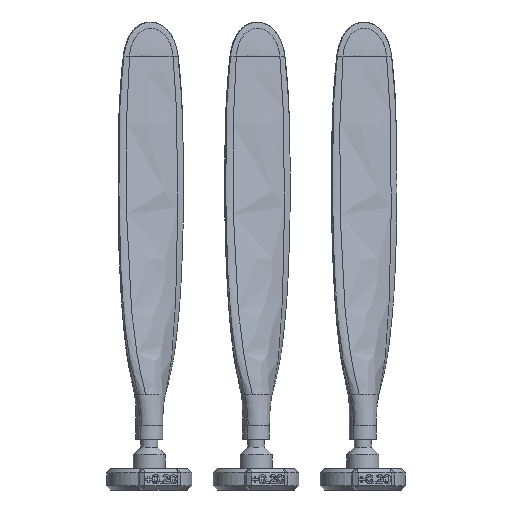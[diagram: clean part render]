
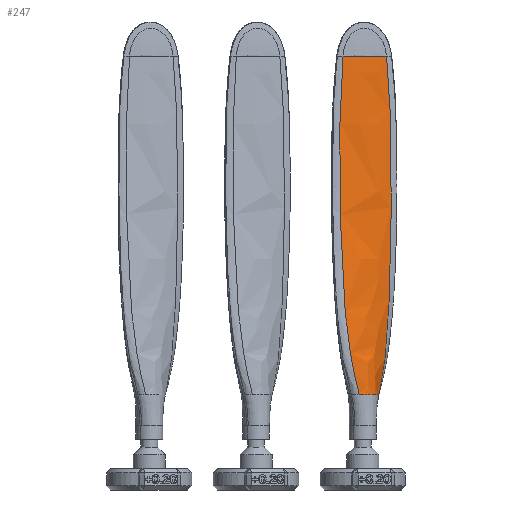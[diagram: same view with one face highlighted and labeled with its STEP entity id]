
A CAD part, front view. The second image highlights one B-rep face of the part: STEP entity #247.
In plain terms, the highlighted free-form (B-spline) face has degree [3, 3] with [4, 16] control points.
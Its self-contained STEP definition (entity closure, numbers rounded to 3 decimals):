
#247=ADVANCED_FACE('',(#535),#4249,.T.);
#535=FACE_OUTER_BOUND('',#843,.T.);
#843=EDGE_LOOP('',(#1850,#1851,#1852,#1853));
#1850=ORIENTED_EDGE('',*,*,#2717,.T.);
#1851=ORIENTED_EDGE('',*,*,#2719,.T.);
#1852=ORIENTED_EDGE('',*,*,#2704,.T.);
#1853=ORIENTED_EDGE('',*,*,#2718,.F.);
#2704=EDGE_CURVE('',#3856,#3855,#3393,.T.);
#2717=EDGE_CURVE('',#3868,#3869,#3406,.T.);
#2718=EDGE_CURVE('',#3868,#3855,#3407,.T.);
#2719=EDGE_CURVE('',#3869,#3856,#3408,.T.);
#3393=B_SPLINE_CURVE_WITH_KNOTS('',3,(#19400,#19401,#19402,#19403,#19404,
#19405,#19406,#19407,#19408,#19409,#19410,#19411,#19412,#19413),
 .UNSPECIFIED.,.F.,.F.,(4,1,1,1,1,1,1,1,1,1,1,4),(-32.018,-30.418,
-28.822,-25.638,-22.455,-19.272,
-16.089,-12.904,-9.716,-6.519,
-3.307,0.),.UNSPECIFIED.);
#3406=B_SPLINE_CURVE_WITH_KNOTS('',3,(#19533,#19534,#19535,#19536,#19537,
#19538,#19539,#19540,#19541,#19542,#19543,#19544,#19545,#19546),
 .UNSPECIFIED.,.F.,.F.,(4,1,1,1,1,1,1,1,1,1,1,4),(0.,3.301,6.511,
9.707,12.894,16.079,19.262,22.444,
25.627,28.811,30.407,32.007),
 .UNSPECIFIED.);
#3407=B_SPLINE_CURVE_WITH_KNOTS('',3,(#19547,#19548,#19549,#19550),
 .UNSPECIFIED.,.F.,.F.,(4,4),(-4.508,0.),.UNSPECIFIED.);
#3408=B_SPLINE_CURVE_WITH_KNOTS('',3,(#19551,#19552,#19553,#19554),
 .UNSPECIFIED.,.F.,.F.,(4,4),(-4.508,0.),.UNSPECIFIED.);
#3855=VERTEX_POINT('',#19241);
#3856=VERTEX_POINT('',#19242);
#3868=VERTEX_POINT('',#19254);
#3869=VERTEX_POINT('',#19255);
#4249=B_SPLINE_SURFACE_WITH_KNOTS('',3,3,((#17088,#17089,#17090,#17091,
#17092,#17093,#17094,#17095,#17096,#17097,#17098,#17099,#17100,#17101,#17102,
#17103),(#17104,#17105,#17106,#17107,#17108,#17109,#17110,#17111,#17112,
#17113,#17114,#17115,#17116,#17117,#17118,#17119),(#17120,#17121,#17122,
#17123,#17124,#17125,#17126,#17127,#17128,#17129,#17130,#17131,#17132,#17133,
#17134,#17135),(#17136,#17137,#17138,#17139,#17140,#17141,#17142,#17143,
#17144,#17145,#17146,#17147,#17148,#17149,#17150,#17151)),.UNSPECIFIED.,
 .F.,.F.,.F.,(4,4),(4,1,1,1,1,1,1,1,1,1,1,1,1,4),(0.,6.217),
(0.,3.301,6.511,9.707,12.894,
16.079,19.262,22.444,25.627,28.811,
30.407,32.007,35.239,38.543),
 .UNSPECIFIED.);
#17088=CARTESIAN_POINT('',(9.661,-1.47,8.9));
#17089=CARTESIAN_POINT('',(9.389,-1.665,9.948));
#17090=CARTESIAN_POINT('',(8.926,-1.934,12.023));
#17091=CARTESIAN_POINT('',(8.487,-1.87,15.248));
#17092=CARTESIAN_POINT('',(8.178,-1.701,18.42));
#17093=CARTESIAN_POINT('',(7.994,-1.507,21.599));
#17094=CARTESIAN_POINT('',(7.889,-1.364,24.775));
#17095=CARTESIAN_POINT('',(7.844,-1.198,27.949));
#17096=CARTESIAN_POINT('',(7.819,-1.048,31.125));
#17097=CARTESIAN_POINT('',(7.855,-0.888,34.3));
#17098=CARTESIAN_POINT('',(7.899,-0.767,36.949));
#17099=CARTESIAN_POINT('',(8.02,-0.648,39.064));
#17100=CARTESIAN_POINT('',(8.18,-0.531,41.191));
#17101=CARTESIAN_POINT('',(8.519,-0.357,43.863));
#17102=CARTESIAN_POINT('',(8.986,-0.213,45.95));
#17103=CARTESIAN_POINT('',(9.268,-0.136,47.));
#17104=CARTESIAN_POINT('',(11.745,-1.045,8.9));
#17105=CARTESIAN_POINT('',(11.673,-1.013,9.948));
#17106=CARTESIAN_POINT('',(11.514,-0.938,12.023));
#17107=CARTESIAN_POINT('',(11.178,-0.802,15.248));
#17108=CARTESIAN_POINT('',(10.884,-0.604,18.42));
#17109=CARTESIAN_POINT('',(10.714,-0.482,21.599));
#17110=CARTESIAN_POINT('',(10.674,-0.52,24.775));
#17111=CARTESIAN_POINT('',(10.593,-0.472,27.949));
#17112=CARTESIAN_POINT('',(10.552,-0.484,31.125));
#17113=CARTESIAN_POINT('',(10.488,-0.434,34.3));
#17114=CARTESIAN_POINT('',(10.446,-0.398,36.949));
#17115=CARTESIAN_POINT('',(10.404,-0.346,39.064));
#17116=CARTESIAN_POINT('',(10.366,-0.3,41.191));
#17117=CARTESIAN_POINT('',(10.3,-0.233,43.863));
#17118=CARTESIAN_POINT('',(10.249,-0.109,45.95));
#17119=CARTESIAN_POINT('',(10.222,-0.034,47.));
#17120=CARTESIAN_POINT('',(11.544,1.444,8.9));
#17121=CARTESIAN_POINT('',(11.827,1.699,9.948));
#17122=CARTESIAN_POINT('',(12.299,2.06,12.023));
#17123=CARTESIAN_POINT('',(12.699,2.024,15.248));
#17124=CARTESIAN_POINT('',(12.956,1.903,18.42));
#17125=CARTESIAN_POINT('',(13.103,1.71,21.599));
#17126=CARTESIAN_POINT('',(13.199,1.518,24.775));
#17127=CARTESIAN_POINT('',(13.216,1.316,27.949));
#17128=CARTESIAN_POINT('',(13.213,1.138,31.125));
#17129=CARTESIAN_POINT('',(13.136,0.955,34.3));
#17130=CARTESIAN_POINT('',(13.059,0.822,36.949));
#17131=CARTESIAN_POINT('',(12.887,0.697,39.064));
#17132=CARTESIAN_POINT('',(12.673,0.571,41.191));
#17133=CARTESIAN_POINT('',(12.206,0.39,43.863));
#17134=CARTESIAN_POINT('',(11.627,0.252,45.95));
#17135=CARTESIAN_POINT('',(11.28,0.181,47.));
#17136=CARTESIAN_POINT('',(11.472,1.508,8.9));
#17137=CARTESIAN_POINT('',(11.775,1.746,9.948));
#17138=CARTESIAN_POINT('',(12.276,2.084,12.023));
#17139=CARTESIAN_POINT('',(12.673,2.064,15.248));
#17140=CARTESIAN_POINT('',(12.93,1.939,18.42));
#17141=CARTESIAN_POINT('',(13.08,1.749,21.599));
#17142=CARTESIAN_POINT('',(13.179,1.557,24.775));
#17143=CARTESIAN_POINT('',(13.198,1.357,27.949));
#17144=CARTESIAN_POINT('',(13.199,1.178,31.125));
#17145=CARTESIAN_POINT('',(13.123,0.999,34.3));
#17146=CARTESIAN_POINT('',(13.047,0.865,36.949));
#17147=CARTESIAN_POINT('',(12.876,0.74,39.064));
#17148=CARTESIAN_POINT('',(12.663,0.615,41.191));
#17149=CARTESIAN_POINT('',(12.198,0.434,43.863));
#17150=CARTESIAN_POINT('',(11.619,0.296,45.95));
#17151=CARTESIAN_POINT('',(11.273,0.225,47.));
#19241=CARTESIAN_POINT('',(9.661,-1.47,8.9));
#19242=CARTESIAN_POINT('',(8.148,-0.559,40.65));
#19254=CARTESIAN_POINT('',(11.511,0.999,8.9));
#19255=CARTESIAN_POINT('',(12.231,0.444,40.65));
#19400=CARTESIAN_POINT('',(8.148,-0.559,40.65));
#19401=CARTESIAN_POINT('',(8.1,-0.59,40.122));
#19402=CARTESIAN_POINT('',(8.02,-0.648,39.064));
#19403=CARTESIAN_POINT('',(7.899,-0.767,36.949));
#19404=CARTESIAN_POINT('',(7.855,-0.888,34.3));
#19405=CARTESIAN_POINT('',(7.819,-1.048,31.125));
#19406=CARTESIAN_POINT('',(7.844,-1.198,27.95));
#19407=CARTESIAN_POINT('',(7.889,-1.364,24.774));
#19408=CARTESIAN_POINT('',(7.994,-1.508,21.598));
#19409=CARTESIAN_POINT('',(8.178,-1.702,18.42));
#19410=CARTESIAN_POINT('',(8.488,-1.87,15.247));
#19411=CARTESIAN_POINT('',(8.926,-1.934,12.022));
#19412=CARTESIAN_POINT('',(9.39,-1.666,9.945));
#19413=CARTESIAN_POINT('',(9.661,-1.47,8.9));
#19533=CARTESIAN_POINT('',(11.511,0.999,8.9));
#19534=CARTESIAN_POINT('',(11.731,1.201,9.948));
#19535=CARTESIAN_POINT('',(12.091,1.494,12.023));
#19536=CARTESIAN_POINT('',(12.351,1.494,15.248));
#19537=CARTESIAN_POINT('',(12.506,1.43,18.42));
#19538=CARTESIAN_POINT('',(12.595,1.297,21.599));
#19539=CARTESIAN_POINT('',(12.666,1.138,24.775));
#19540=CARTESIAN_POINT('',(12.666,0.985,27.949));
#19541=CARTESIAN_POINT('',(12.658,0.841,31.125));
#19542=CARTESIAN_POINT('',(12.586,0.705,34.3));
#19543=CARTESIAN_POINT('',(12.517,0.605,36.949));
#19544=CARTESIAN_POINT('',(12.373,0.514,39.064));
#19545=CARTESIAN_POINT('',(12.285,0.468,40.122));
#19546=CARTESIAN_POINT('',(12.231,0.444,40.65));
#19547=CARTESIAN_POINT('',(11.511,0.999,8.9));
#19548=CARTESIAN_POINT('',(11.482,0.231,8.9));
#19549=CARTESIAN_POINT('',(11.172,-1.162,8.9));
#19550=CARTESIAN_POINT('',(9.661,-1.47,8.9));
#19551=CARTESIAN_POINT('',(12.231,0.444,40.65));
#19552=CARTESIAN_POINT('',(11.436,0.15,40.65));
#19553=CARTESIAN_POINT('',(9.762,-0.379,40.65));
#19554=CARTESIAN_POINT('',(8.148,-0.559,40.65));
